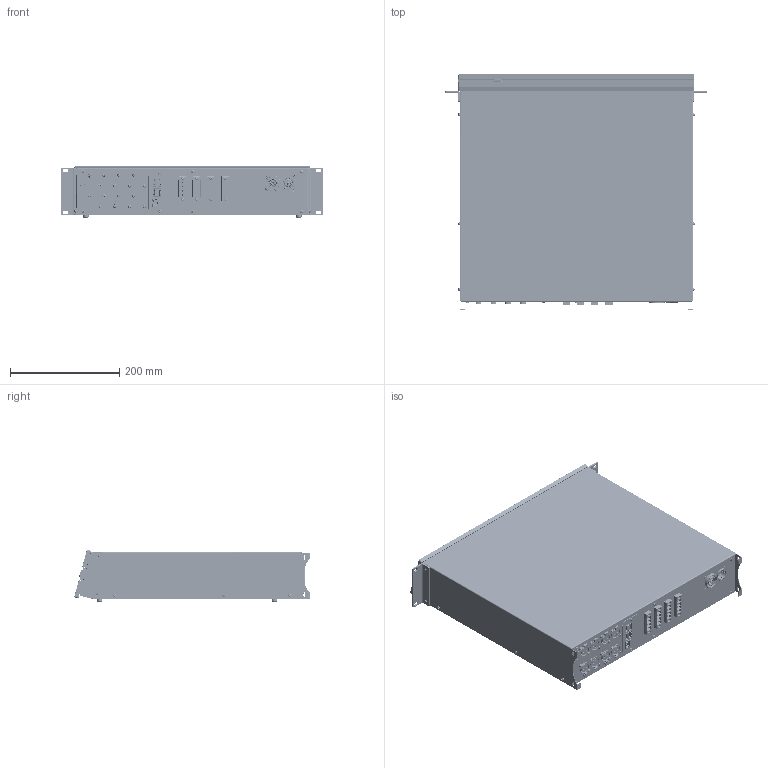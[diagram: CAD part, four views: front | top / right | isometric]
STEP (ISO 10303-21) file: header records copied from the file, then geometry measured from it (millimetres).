
FILE_DESCRIPTION(/* description */ (''),/* implementation_level */ '2;1');
FILE_NAME(/* name */ 'Kommander-KA208',/* time_stamp */ '2026-03-18T10:09:25+01:00',/* author */ (''),/* organization */ (''),/* preprocessor_version */ 'ST-DEVELOPER v19.2',/* originating_system */ 'Rhino 8.24',/* authorisation */ '');
FILE_SCHEMA (('CONFIG_CONTROL_DESIGN'));
Products named in the file (13): Document; VTA03X10RTIN01; hexa csunk flathd screw_iso_ISO 14581 M3x10x10-C; hexalobular socket pan head_iso_ISO 14583 - M3 x 6 x 5 - 4.8-N; CONM04P762; PWRCONNTFMTRUE1; MCP139A10_01; MMFTT04X05; MCP145A02_04; VTM04X10STIN0; MCP145A04_01; MCP145A05_03; MCP145A06_01_MCP145A06ABS_01
Bounding box: 478.5 x 431.49 x 96 mm (x, y, z)
Volume: 886164.4 mm3; surface area: 1276032.3 mm2
Topology: 112 solids, 135 shells, 18254 faces, 51399 edges, 33660 vertices
Faces by surface type: plane 8972, cylinder 7112, bspline 2170
Entity records: 583014 total; most frequent: CARTESIAN_POINT 214568, ORIENTED_EDGE 87575, EDGE_CURVE 43921, DIRECTION 38843, B_SPLINE_CURVE_WITH_KNOTS 30969, VERTEX_POINT 29138, AXIS2_PLACEMENT_3D 26352, EDGE_LOOP 17768
